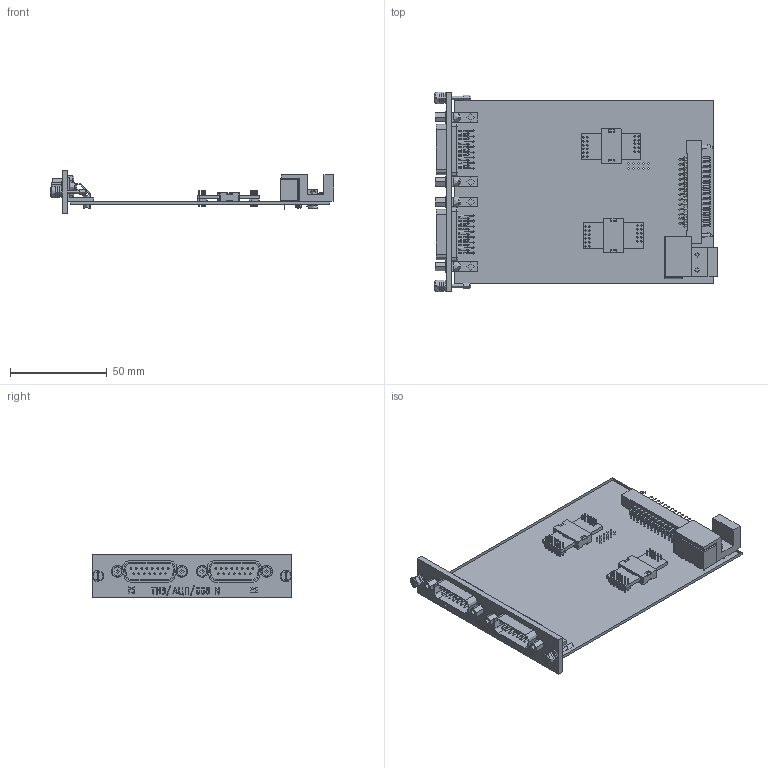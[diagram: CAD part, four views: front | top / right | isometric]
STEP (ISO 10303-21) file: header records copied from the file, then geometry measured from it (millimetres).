
FILE_DESCRIPTION(('STEP AP203'), '1');
FILE_NAME('帎迗.468155.016 沓劌錪 眝3_氈柉008', '', ('UNSPECIFIED'), ('UNSPECIFIED'), 'C3D Converter', 'C3D Toolkit', '');
FILE_SCHEMA(('CONFIG_CONTROL_DESIGN'));
Length unit declared in the file: millimetre
Products named in the file (1): КМНТ.468155.016
Bounding box: 146.22 x 103 x 21.7 mm (x, y, z)
Topology: 2 solids, 6 shells, 3367 faces, 8472 edges, 5312 vertices
Faces by surface type: plane 2124, cylinder 1037, torus 69, sphere 60, revolution 59, cone 18
Full cylindrical faces by diameter (mm): 0.6 x163, 0.8 x29, 1 x217, 1.1 x7, 1.4 x2, 1.6 x2, 2 x2, 2.459 x6, 2.49 x2, 2.5 x4, 2.7 x2, 3 x10, 3.1 x4, 3.2 x2, 3.5 x4, 4 x4, 4.5 x2, 5 x6, 6 x10
Entity records: 129978 total; most frequent: CARTESIAN_POINT 23373, DIRECTION 16543, ORIENTED_EDGE 15422, EDGE_CURVE 7711, AXIS2_PLACEMENT_3D 5626, VERTEX_POINT 5333, LINE 5233, VECTOR 5233
